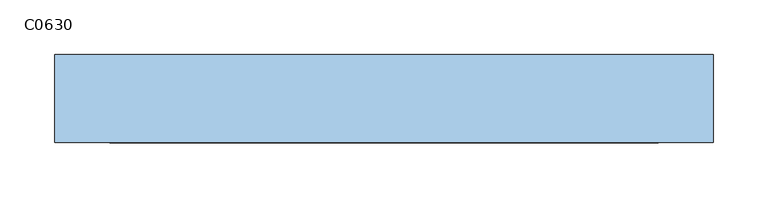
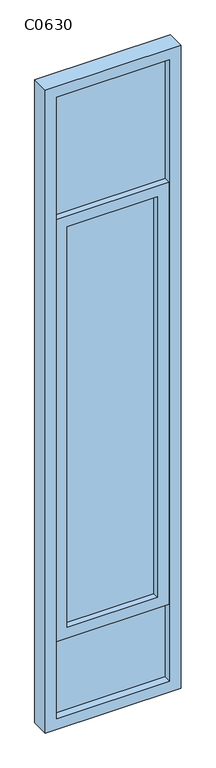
"""IFC4 building model written with IfcOpenShell, lengths in millimetres: window geometry, 组合窗 - 双层单列(固定+推拉) - 副本 : C0630."""

from ifc_helpers import new_model, si_unit, frame, origin, place, context, project, spatial, polyline, outline, extrude, source, transform, mapped, element, save


def c0630_fb5b9edb(model_context):
    return source(origin(), model_context, "Body", "SweptSolid", [
        extrude(outline(polyline([(250.0, -10.0), (-250.0, -10.0), (-250.0, 0.0), (250.0, 0.0), (250.0, -10.0)])), frame((0.0, 0.0, 950.0), z_axis=(0.0, 0.0, 1.0), x_axis=(1.0, 0.0, 0.0)), (0.0, 0.0, 1.0), 2900.0),
        extrude(outline(polyline([(3275.0, 250.0), (3275.0, -250.0), (1305.0, -250.0), (1305.0, 250.0), (3275.0, 250.0)]), holes=[polyline([(1355.0, 200.0), (1355.0, -200.0), (3225.0, -200.0), (3225.0, 200.0), (1355.0, 200.0)])]), frame((0.0, -40.0, 0.0), z_axis=(0.0, 1.0, 0.0), x_axis=(0.0, 0.0, 1.0)), (0.0, 0.0, 1.0), 30.0),
        extrude(outline(polyline([(3900.0, -300.0), (900.0, -300.0), (900.0, 300.0), (3900.0, 300.0), (3900.0, -300.0)]), holes=[polyline([(3850.0, 250.0), (950.0, 250.0), (950.0, -250.0), (3850.0, -250.0), (3850.0, 250.0)])]), frame((0.0, -45.0, 0.0), z_axis=(0.0, 1.0, 0.0), x_axis=(0.0, 0.0, 1.0)), (0.0, 0.0, 1.0), 80.0),
    ])


if __name__ == "__main__":
    model = new_model("IFC4")
    model_context = context("Model", 3, world=origin())
    ifc_project = project(units=[si_unit("LENGTHUNIT", "METRE", prefix="MILLI")], contexts=[model_context])
    site = spatial("IfcSite", under=ifc_project)
    building = spatial("IfcBuilding", under=site)
    placement = place(None, origin())
    c0630_shape = c0630_fb5b9edb(model_context)
    element("IfcWindow", 1, ObjectType="组合窗 - 双层单列(固定+推拉) - 副本 : C0630", at=placement, inside=building, context=model_context, shape_type="MappedRepresentation", body=[
        mapped(c0630_shape, transform((0.0, 0.0, 0.0), x_axis=(1.0, 0.0, 0.0), y_axis=(0.0, 1.0, 0.0), z_axis=(0.0, 0.0, 1.0))),
    ])
    save(model, "model.ifc")
